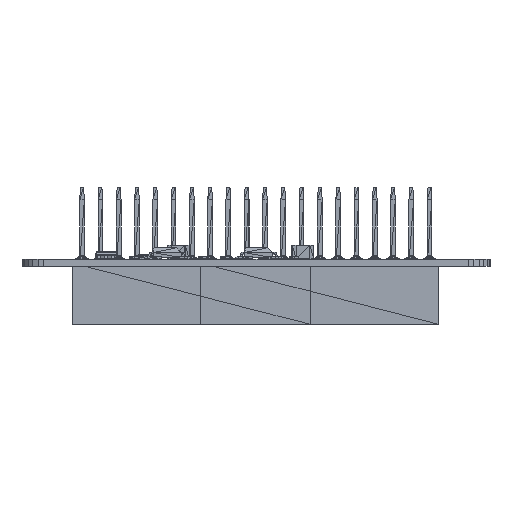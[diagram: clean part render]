
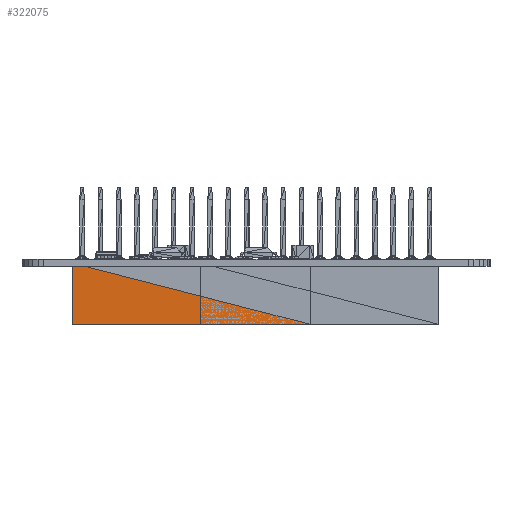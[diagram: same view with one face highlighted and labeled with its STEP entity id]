
A CAD part, front view. The second image highlights one B-rep face of the part: STEP entity #322075.
In plain terms, the highlighted planar face has unit normal (0, -1, 0) as drawn and (0, 0, -1) by its records, which use the part's own axes.
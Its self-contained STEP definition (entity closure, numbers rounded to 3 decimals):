
#26963=FACE_OUTER_BOUND('',#53816,.T.);
#53816=EDGE_LOOP('',(#265501,#265502,#265503));
#92718=LINE('',#522755,#132513);
#92727=LINE('',#522772,#132522);
#92728=LINE('',#522774,#132523);
#132513=VECTOR('',#439030,1.);
#132522=VECTOR('',#439047,1.);
#132523=VECTOR('',#439050,1.);
#148531=VERTEX_POINT('',#522748);
#148533=VERTEX_POINT('',#522754);
#148537=VERTEX_POINT('',#522770);
#187256=EDGE_CURVE('',#148531,#148533,#92718,.T.);
#187265=EDGE_CURVE('',#148537,#148531,#92727,.T.);
#187266=EDGE_CURVE('',#148533,#148537,#92728,.T.);
#265501=ORIENTED_EDGE('',*,*,#187256,.F.);
#265502=ORIENTED_EDGE('',*,*,#187265,.F.);
#265503=ORIENTED_EDGE('',*,*,#187266,.F.);
#295524=PLANE('',#349460);
#322075=ADVANCED_FACE('',(#26963),#295524,.F.);
#349460=AXIS2_PLACEMENT_3D('',#522773,#439048,#439049);
#439030=DIRECTION('',(0.968,0.249,0.));
#439047=DIRECTION('',(0.,-1.,0.));
#439048=DIRECTION('center_axis',(0.,0.,1.));
#439049=DIRECTION('ref_axis',(0.,1.,0.));
#439050=DIRECTION('',(-1.,0.,0.));
#522748=CARTESIAN_POINT('',(-34.335,10.648,-1.253));
#522754=CARTESIAN_POINT('',(-1.315,19.148,-1.253));
#522755=CARTESIAN_POINT('',(-34.335,10.648,-1.253));
#522770=CARTESIAN_POINT('',(-34.335,19.148,-1.253));
#522772=CARTESIAN_POINT('',(-34.335,19.148,-1.253));
#522773=CARTESIAN_POINT('Origin',(-1.315,19.148,-1.253));
#522774=CARTESIAN_POINT('',(-1.315,19.148,-1.253));
